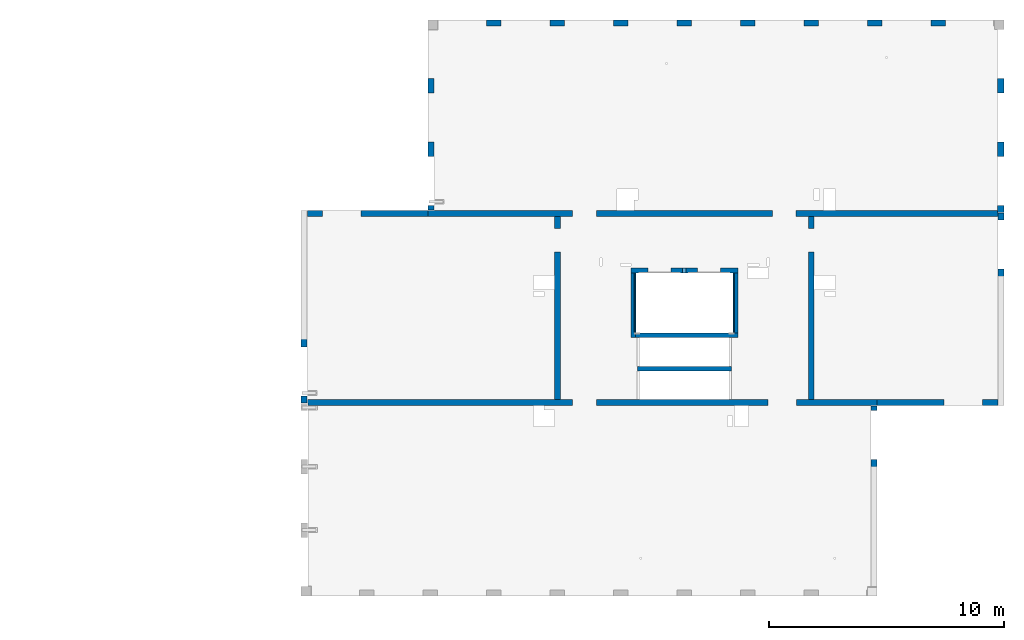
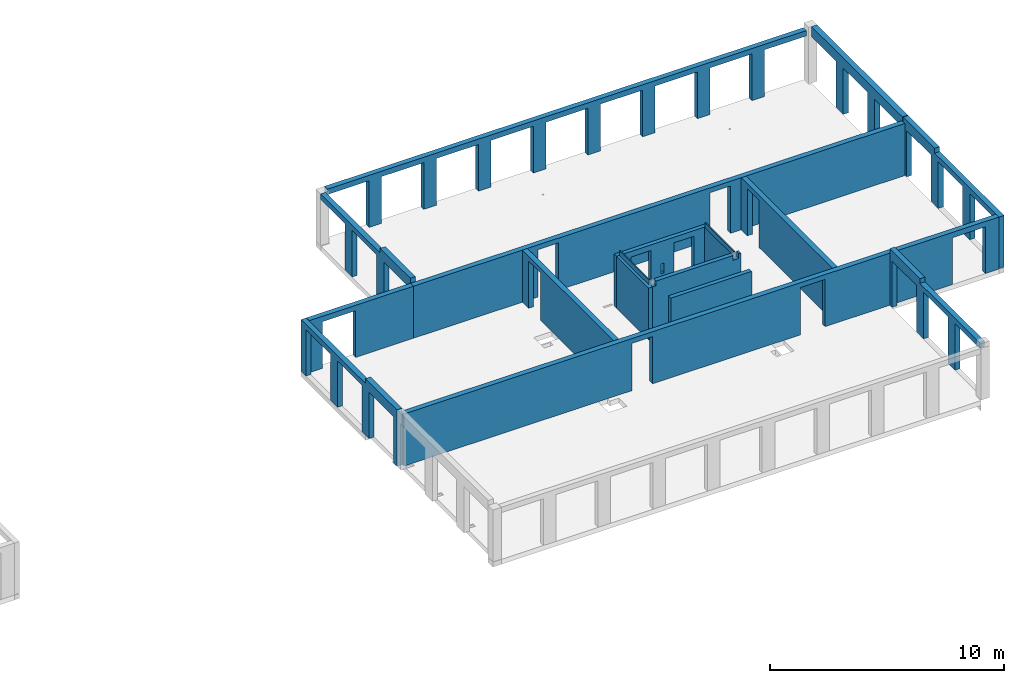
# One storey, part 4 of 8: 19 walls, 42 openings.
"""IFC2X3 building model written with IfcOpenShell, lengths in millimetres."""

from ifc_helpers import new_model, entity, si_unit, converted_unit, derived_unit, direction, frame, frame_2d, origin, place, context, subcontext, project, spatial, rectangle, extrude, material, layer, layer_set, layer_usage, type_object, element, save


model = new_model("IFC2X3")

# Units and contexts
model_context = context("Model", 3, precision=0.01, world=origin(), true_north=direction((6.12303176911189e-17, 1.0)))
body_context = subcontext(model_context, "Body", "Model", "MODEL_VIEW")
ifc_project = project(units=[si_unit("LENGTHUNIT", "METRE", prefix="MILLI"), si_unit("AREAUNIT", "SQUARE_METRE"), si_unit("VOLUMEUNIT", "CUBIC_METRE"), converted_unit("PLANEANGLEUNIT", "DEGREE", entity("IfcRatioMeasure", 0.0174532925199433), si_unit("PLANEANGLEUNIT", "RADIAN"), dimensions=[0, 0, 0, 0, 0, 0, 0]), si_unit("MASSUNIT", "GRAM", prefix="KILO"), derived_unit("MASSDENSITYUNIT", [(si_unit("MASSUNIT", "GRAM", prefix="KILO"), 1), (si_unit("LENGTHUNIT", "METRE"), -3)]), si_unit("TIMEUNIT", "SECOND"), si_unit("FREQUENCYUNIT", "HERTZ"), si_unit("THERMODYNAMICTEMPERATUREUNIT", "DEGREE_CELSIUS"), derived_unit("THERMALTRANSMITTANCEUNIT", [(si_unit("MASSUNIT", "GRAM", prefix="KILO"), 1), (si_unit("THERMODYNAMICTEMPERATUREUNIT", "KELVIN"), -1), (si_unit("TIMEUNIT", "SECOND"), -3)]), derived_unit("VOLUMETRICFLOWRATEUNIT", [(si_unit("LENGTHUNIT", "METRE"), 3), (si_unit("TIMEUNIT", "SECOND"), -1)]), si_unit("ELECTRICCURRENTUNIT", "AMPERE"), si_unit("ELECTRICVOLTAGEUNIT", "VOLT"), si_unit("POWERUNIT", "WATT"), si_unit("FORCEUNIT", "NEWTON", prefix="KILO"), si_unit("ILLUMINANCEUNIT", "LUX"), si_unit("LUMINOUSFLUXUNIT", "LUMEN"), si_unit("LUMINOUSINTENSITYUNIT", "CANDELA"), derived_unit("USERDEFINED", [(si_unit("MASSUNIT", "GRAM", prefix="KILO"), -1), (si_unit("LENGTHUNIT", "METRE"), -2), (si_unit("TIMEUNIT", "SECOND"), 3), (si_unit("LUMINOUSFLUXUNIT", "LUMEN"), 1)]), derived_unit("LINEARVELOCITYUNIT", [(si_unit("LENGTHUNIT", "METRE"), 1), (si_unit("TIMEUNIT", "SECOND"), -1)]), si_unit("PRESSUREUNIT", "PASCAL"), derived_unit("USERDEFINED", [(si_unit("LENGTHUNIT", "METRE"), -2), (si_unit("MASSUNIT", "GRAM", prefix="KILO"), 1), (si_unit("TIMEUNIT", "SECOND"), -2)])], contexts=[model_context])

# Site, building, storey
site_placement = place(None, origin())
site = spatial("IfcSite", under=ifc_project, at=site_placement, Name="Default", CompositionType="ELEMENT")
building_placement = place(site_placement, origin())
building = spatial("IfcBuilding", under=site, at=building_placement, Name="niet gebruiken", CompositionType="ELEMENT")
storey_placement = place(building_placement, frame((0.0, 0.0, 36360.0)))
storey = spatial("IfcBuildingStorey", under=building, at=storey_placement, Name="12 twaalfde verdieping", CompositionType="ELEMENT", Elevation=36360.0)

# Wall, openings
ifc_material_1 = material(Name="NLRS_f2_beton ihwg")
ifc_layer_1 = layer(ifc_material_1, 250.0)
ifc_layer_set_1 = layer_set([ifc_layer_1], Name="Basic Wall:NLRS_22.21_WA_beton ihwg d=250_gen")
ifc_layer_usage_1 = layer_usage(ifc_layer_set_1, "AXIS2", "NEGATIVE", 125.0)
wall_type_1 = type_object("IfcWallType", Name="Basic Wall:NLRS_22.21_WA_beton ihwg d=250_gen", PredefinedType="STANDARD", material=ifc_layer_set_1)
wall_1_placement = place(storey_placement, frame((75770.0, 36981.0, -90.0)))
wall_1 = element("IfcWallStandardCase", 1, at=wall_1_placement, inside=storey, type_object=wall_type_1, material=ifc_layer_usage_1, Name="Basic Wall:NLRS_22.21_WA_beton ihwg d=250_gen", ObjectType="Basic Wall:NLRS_22.21_WA_beton ihwg d=250_gen", context=body_context, shape_type="SweptSolid", body=[
    extrude(rectangle(XDim=24230.0000000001, YDim=250.000000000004, at=frame_2d((12115.0, 0.0), x_axis=(-1.0, 0.0))), origin(), (0.0, 0.0, 1.0), 2719.99999999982),
])
opening_1_placement = place(wall_1_placement, origin())
element("IfcOpeningElement", 2, at=opening_1_placement, cuts=wall_1, Name="Basic Wall:NLRS_22.21_WA_beton ihwg d=250_gen", ObjectType="Opening", context=body_context, shape_type="SweptSolid", body=[
    extrude(rectangle(XDim=2470.0, YDim=1225.0, at=frame_2d((-8.69704308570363e-12, -4.43378667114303e-12), x_axis=(0.0, 1.0))), frame((20192.5000000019, -1399.0, 1235.0), z_axis=(0.0, 1.0, 0.0), x_axis=(-1.0, 0.0, 0.0)), (0.0, 0.0, 1.0), 3048.0),
])
opening_2_placement = place(wall_1_placement, origin())
element("IfcOpeningElement", 3, at=opening_2_placement, cuts=wall_1, Name="Basic Wall:NLRS_22.21_WA_beton ihwg d=250_gen", ObjectType="Opening", context=body_context, shape_type="SweptSolid", body=[
    extrude(rectangle(XDim=2470.0, YDim=1006.0, at=frame_2d((8.66862137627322e-12, 0.0), x_axis=(0.0, 1.0))), frame((11782.0, -1399.0, 1235.0), z_axis=(0.0, 1.0, 0.0), x_axis=(-1.0, 0.0, 0.0)), (0.0, 0.0, 1.0), 3048.0),
])
opening_3_placement = place(wall_1_placement, origin())
element("IfcOpeningElement", 4, at=opening_3_placement, cuts=wall_1, Name="Basic Wall:NLRS_22.21_WA_beton ihwg d=250_gen", ObjectType="Recess", context=body_context, shape_type="SweptSolid", body=[
    extrude(rectangle(XDim=55000.0, YDim=19.9999999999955, at=frame_2d((0.0, 4.33164615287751e-12), x_axis=(1.0, 0.0))), frame((10.0, -140.0, 3740.0), z_axis=(0.0, 1.0, 0.0), x_axis=(0.0, 0.0, -1.0)), (0.0, 0.0, 1.0), 124.999999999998),
])

# Wall, opening
ifc_layer_usage_2 = layer_usage(ifc_layer_set_1, "AXIS2", "NEGATIVE", 125.0)
wall_2_placement = place(storey_placement, frame((75770.0, 45031.0, -90.0)))
wall_2 = element("IfcWallStandardCase", 5, at=wall_2_placement, inside=storey, type_object=wall_type_1, material=ifc_layer_usage_2, Name="Basic Wall:NLRS_22.21_WA_beton ihwg d=250_gen", ObjectType="Basic Wall:NLRS_22.21_WA_beton ihwg d=250_gen", context=body_context, shape_type="SweptSolid", body=[
    extrude(rectangle(XDim=5130.0, YDim=249.999999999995, at=frame_2d((2565.0, 0.0), x_axis=(-1.0, 0.0))), origin(), (0.0, 0.0, 1.0), 2719.99999999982),
])
opening_4_placement = place(wall_2_placement, origin())
element("IfcOpeningElement", 6, at=opening_4_placement, cuts=wall_2, Name="Basic Wall:NLRS_22.21_WA_beton ihwg d=250_gen", ObjectType="Opening", context=body_context, shape_type="SweptSolid", body=[
    extrude(rectangle(XDim=2440.0, YDim=1640.0, at=frame_2d((0.0, 4.37694325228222e-12), x_axis=(1.0, 0.0))), frame((1460.0, -1649.0, 1220.0), z_axis=(0.0, 1.0, 0.0), x_axis=(0.0, 0.0, 1.0)), (0.0, 0.0, 1.0), 3048.0),
])

ifc_layer_usage_3 = layer_usage(ifc_layer_set_1, "AXIS2", "NEGATIVE", 125.0)
wall_3_placement = place(storey_placement, frame((86400.0, 44906.0, -90.0), z_axis=(0.0, 0.0, 1.0), x_axis=(0.0, -1.0, 0.0)))
wall_3 = element("IfcWallStandardCase", 7, at=wall_3_placement, inside=storey, type_object=wall_type_1, material=ifc_layer_usage_3, Name="Basic Wall:NLRS_22.21_WA_beton ihwg d=250_gen", ObjectType="Basic Wall:NLRS_22.21_WA_beton ihwg d=250_gen", context=body_context, shape_type="SweptSolid", body=[
    extrude(rectangle(XDim=7799.99999999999, YDim=250.000000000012, at=frame_2d((3900.0, 0.0), x_axis=(-1.0, 0.0))), origin(), (0.0, 0.0, 1.0), 2719.99999999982),
])
opening_5_placement = place(wall_3_placement, origin())
element("IfcOpeningElement", 8, at=opening_5_placement, cuts=wall_3, Name="Basic Wall:NLRS_22.21_WA_beton ihwg d=250_gen", ObjectType="Opening", context=body_context, shape_type="SweptSolid", body=[
    extrude(rectangle(XDim=2470.0, YDim=1006.0, at=frame_2d((-4.43378667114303e-12, 0.0), x_axis=(1.0, 0.0))), frame((1027.0, -1649.0, 1235.0), z_axis=(0.0, 1.0, 0.0), x_axis=(0.0, 0.0, 1.0)), (0.0, 0.0, 1.0), 3048.0),
])

ifc_layer_usage_4 = layer_usage(ifc_layer_set_1, "AXIS2", "NEGATIVE", 125.0)
wall_4_placement = place(storey_placement, frame((97200.0, 44906.0, -90.0), z_axis=(0.0, 0.0, 1.0), x_axis=(0.0, -1.0, 0.0)))
wall_4 = element("IfcWallStandardCase", 9, at=wall_4_placement, inside=storey, type_object=wall_type_1, material=ifc_layer_usage_4, Name="Basic Wall:NLRS_22.21_WA_beton ihwg d=250_gen", ObjectType="Basic Wall:NLRS_22.21_WA_beton ihwg d=250_gen", context=body_context, shape_type="SweptSolid", body=[
    extrude(rectangle(XDim=7799.99999999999, YDim=250.000000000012, at=frame_2d((3900.0, 0.0), x_axis=(-1.0, 0.0))), origin(), (0.0, 0.0, 1.0), 2719.99999999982),
])
opening_6_placement = place(wall_4_placement, origin())
element("IfcOpeningElement", 10, at=opening_6_placement, cuts=wall_4, Name="Basic Wall:NLRS_22.21_WA_beton ihwg d=250_gen", ObjectType="Opening", context=body_context, shape_type="SweptSolid", body=[
    extrude(rectangle(XDim=2470.0, YDim=1006.0, at=frame_2d((-4.43378667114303e-12, 0.0), x_axis=(1.0, 0.0))), frame((1027.0, -1649.0, 1235.0), z_axis=(0.0, 1.0, 0.0), x_axis=(0.0, 0.0, 1.0)), (0.0, 0.0, 1.0), 3048.0),
])

# Wall, openings
ifc_layer_usage_5 = layer_usage(ifc_layer_set_1, "AXIS2", "NEGATIVE", 125.0)
wall_5_placement = place(storey_placement, frame((80900.0, 45031.0, -90.0)))
wall_5 = element("IfcWallStandardCase", 11, at=wall_5_placement, inside=storey, type_object=wall_type_1, material=ifc_layer_usage_5, Name="Basic Wall:NLRS_22.21_WA_beton ihwg d=250_gen", ObjectType="Basic Wall:NLRS_22.21_WA_beton ihwg d=250_gen", context=body_context, shape_type="SweptSolid", body=[
    extrude(rectangle(XDim=24250.0, YDim=249.999999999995, at=frame_2d((12125.0, 0.0), x_axis=(-1.0, 0.0))), origin(), (0.0, 0.0, 1.0), 2719.99999999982),
])
opening_7_placement = place(wall_5_placement, origin())
element("IfcOpeningElement", 12, at=opening_7_placement, cuts=wall_5, Name="Basic Wall:NLRS_22.21_WA_beton ihwg d=250_gen", ObjectType="Opening", context=body_context, shape_type="SweptSolid", body=[
    extrude(rectangle(XDim=2470.0, YDim=1006.0, at=frame_2d((-4.43378667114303e-12, 8.66862137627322e-12), x_axis=(1.0, 0.0))), frame((15148.0, -1649.0, 1235.0), z_axis=(0.0, 1.0, 0.0), x_axis=(0.0, 0.0, 1.0)), (0.0, 0.0, 1.0), 3048.0),
])
opening_8_placement = place(wall_5_placement, origin())
element("IfcOpeningElement", 13, at=opening_8_placement, cuts=wall_5, Name="Basic Wall:NLRS_22.21_WA_beton ihwg d=250_gen", ObjectType="Opening", context=body_context, shape_type="SweptSolid", body=[
    extrude(rectangle(XDim=2470.0, YDim=1006.0, at=frame_2d((0.0, 8.66862137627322e-12), x_axis=(1.0, 0.0))), frame((6652.0, -1649.0, 1235.0), z_axis=(0.0, 1.0, 0.0), x_axis=(0.0, 0.0, 1.0)), (0.0, 0.0, 1.0), 3048.0),
])

# Wall, opening
ifc_layer_usage_6 = layer_usage(ifc_layer_set_1, "AXIS2", "NEGATIVE", 125.0)
wall_6_placement = place(storey_placement, frame((100000.0, 36981.0, -90.0)))
wall_6 = element("IfcWallStandardCase", 14, at=wall_6_placement, inside=storey, type_object=wall_type_1, material=ifc_layer_usage_6, Name="Basic Wall:NLRS_22.21_WA_beton ihwg d=250_gen", ObjectType="Basic Wall:NLRS_22.21_WA_beton ihwg d=250_gen", context=body_context, shape_type="SweptSolid", body=[
    extrude(rectangle(XDim=5149.99999999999, YDim=250.000000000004, at=frame_2d((2575.0, 0.0), x_axis=(-1.0, 0.0))), origin(), (0.0, 0.0, 1.0), 2719.99999999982),
])
opening_9_placement = place(wall_6_placement, origin())
element("IfcOpeningElement", 15, at=opening_9_placement, cuts=wall_6, Name="Basic Wall:NLRS_22.21_WA_beton ihwg d=250_gen", ObjectType="Opening", context=body_context, shape_type="SweptSolid", body=[
    extrude(rectangle(XDim=2440.0, YDim=1639.99999999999, at=frame_2d((-8.69704308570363e-12, 0.0), x_axis=(0.0, 1.0))), frame((3670.0, -1399.0, 1220.0), z_axis=(0.0, 1.0, 0.0), x_axis=(-1.0, 0.0, 0.0)), (0.0, 0.0, 1.0), 3048.0),
])

# Wall, openings
ifc_material_2 = material(Name="NLRS_f2_beton prefab")
ifc_layer_2 = layer(ifc_material_2, 250.0)
ifc_layer_set_2 = layer_set([ifc_layer_2], Name="Basic Wall:NLRS_21.21_WA_beton prefab d=250_gen")
ifc_layer_usage_7 = layer_usage(ifc_layer_set_2, "AXIS2", "NEGATIVE", 125.0)
wall_type_2 = type_object("IfcWallType", Name="Basic Wall:NLRS_21.21_WA_beton prefab d=250_gen", PredefinedType="STANDARD", material=ifc_layer_set_2)
wall_7_placement = place(storey_placement, frame((75625.0, 45156.0, -70.0), z_axis=(0.0, 0.0, 1.0), x_axis=(0.0, -1.0, 0.0)))
wall_7 = element("IfcWallStandardCase", 16, at=wall_7_placement, inside=storey, type_object=wall_type_2, material=ifc_layer_usage_7, Name="Basic Wall:NLRS_21.21_WA_beton prefab d=250_gen", ObjectType="Basic Wall:NLRS_21.21_WA_beton prefab d=250_gen", context=body_context, shape_type="SweptSolid", body=[
    extrude(rectangle(XDim=8189.99999999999, YDim=249.999999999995, at=frame_2d((4095.0, 0.0), x_axis=(-1.0, 0.0))), origin(), (0.0, 0.0, 1.0), 2949.99999999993),
])
opening_10_placement = place(wall_7_placement, origin())
element("IfcOpeningElement", 17, at=opening_10_placement, cuts=wall_7, Name="Basic Wall:NLRS_21.21_WA_beton prefab d=250_gen", ObjectType="Opening", context=body_context, shape_type="SweptSolid", body=[
    extrude(rectangle(XDim=2420.0, YDim=2080.0, at=frame_2d((0.0, -2.1600499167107e-12), x_axis=(0.0, 1.0))), frame((1450.0, -1399.0, 1210.0), z_axis=(0.0, 1.0, 0.0), x_axis=(-1.0, 0.0, 0.0)), (0.0, 0.0, 1.0), 3048.0),
])
opening_11_placement = place(wall_7_placement, origin())
element("IfcOpeningElement", 18, at=opening_11_placement, cuts=wall_7, Name="Basic Wall:NLRS_21.21_WA_beton prefab d=250_gen", ObjectType="Opening", context=body_context, shape_type="SweptSolid", body=[
    extrude(rectangle(XDim=2420.0, YDim=2080.0, at=frame_2d((0.0, 2.1600499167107e-12), x_axis=(0.0, 1.0))), frame((4150.0, -1399.0, 1210.0), z_axis=(0.0, 1.0, 0.0), x_axis=(-1.0, 0.0, 0.0)), (0.0, 0.0, 1.0), 3048.0),
])
opening_12_placement = place(wall_7_placement, origin())
element("IfcOpeningElement", 19, at=opening_12_placement, cuts=wall_7, Name="Basic Wall:NLRS_21.21_WA_beton prefab d=250_gen", ObjectType="Opening", context=body_context, shape_type="SweptSolid", body=[
    extrude(rectangle(XDim=2420.0, YDim=2080.0, at=frame_2d((0.0, 2.1600499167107e-12), x_axis=(0.0, 1.0))), frame((6850.0, -1399.0, 1210.0), z_axis=(0.0, 1.0, 0.0), x_axis=(-1.0, 0.0, 0.0)), (0.0, 0.0, 1.0), 3048.0),
])
opening_13_placement = place(wall_7_placement, origin())
element("IfcOpeningElement", 20, at=opening_13_placement, cuts=wall_7, Name="Basic Wall:NLRS_21.21_WA_beton prefab d=250_gen", ObjectType="Opening", context=body_context, shape_type="SweptSolid", body=[
    extrude(rectangle(XDim=250.000000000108, YDim=5499.99999999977, at=frame_2d((0.0, 4.32720526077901e-12), x_axis=(0.0, 1.0))), frame((2750.0, 125.0, 2825.0), z_axis=(0.0, -1.0, 0.0), x_axis=(-1.0, 0.0, 0.0)), (0.0, 0.0, 1.0), 250.0),
])

ifc_layer_usage_8 = layer_usage(ifc_layer_set_2, "AXIS2", "NEGATIVE", 125.0)
wall_8_placement = place(storey_placement, frame((81025.0, 52846.0, -70.0), z_axis=(0.0, 0.0, 1.0), x_axis=(0.0, -1.0, 0.0)))
wall_8 = element("IfcWallStandardCase", 21, at=wall_8_placement, inside=storey, type_object=wall_type_2, material=ifc_layer_usage_8, Name="Basic Wall:NLRS_21.21_WA_beton prefab d=250_gen", ObjectType="Basic Wall:NLRS_21.21_WA_beton prefab d=250_gen", context=body_context, shape_type="SweptSolid", body=[
    extrude(rectangle(XDim=7670.00000000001, YDim=250.000000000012, at=frame_2d((3835.0, 0.0), x_axis=(-1.0, 0.0))), origin(), (0.0, 0.0, 1.0), 2949.99999999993),
])
opening_14_placement = place(wall_8_placement, origin())
element("IfcOpeningElement", 22, at=opening_14_placement, cuts=wall_8, Name="Basic Wall:NLRS_21.21_WA_beton prefab d=250_gen", ObjectType="Opening", context=body_context, shape_type="SweptSolid", body=[
    extrude(rectangle(XDim=2420.0, YDim=2080.0, at=frame_2d((0.0, -2.1600499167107e-12), x_axis=(0.0, 1.0))), frame((1040.0, -1399.0, 1210.0), z_axis=(0.0, 1.0, 0.0), x_axis=(-1.0, 0.0, 0.0)), (0.0, 0.0, 1.0), 3048.0),
])
opening_15_placement = place(wall_8_placement, origin())
element("IfcOpeningElement", 23, at=opening_15_placement, cuts=wall_8, Name="Basic Wall:NLRS_21.21_WA_beton prefab d=250_gen", ObjectType="Opening", context=body_context, shape_type="SweptSolid", body=[
    extrude(rectangle(XDim=2420.0, YDim=2080.0, at=frame_2d((0.0, 2.1600499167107e-12), x_axis=(0.0, 1.0))), frame((3740.0, -1399.0, 1210.0), z_axis=(0.0, 1.0, 0.0), x_axis=(-1.0, 0.0, 0.0)), (0.0, 0.0, 1.0), 3048.0),
])
opening_16_placement = place(wall_8_placement, origin())
element("IfcOpeningElement", 24, at=opening_16_placement, cuts=wall_8, Name="Basic Wall:NLRS_21.21_WA_beton prefab d=250_gen", ObjectType="Opening", context=body_context, shape_type="SweptSolid", body=[
    extrude(rectangle(XDim=2420.0, YDim=2080.0, at=frame_2d((0.0, 2.1600499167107e-12), x_axis=(0.0, 1.0))), frame((6440.0, -1399.0, 1210.0), z_axis=(0.0, 1.0, 0.0), x_axis=(-1.0, 0.0, 0.0)), (0.0, 0.0, 1.0), 3048.0),
])
opening_17_placement = place(wall_8_placement, origin())
element("IfcOpeningElement", 25, at=opening_17_placement, cuts=wall_8, Name="Basic Wall:NLRS_21.21_WA_beton prefab d=250_gen", ObjectType="Opening", context=body_context, shape_type="SweptSolid", body=[
    extrude(rectangle(XDim=250.000000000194, YDim=5089.99999999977, at=frame_2d((4.32009983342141e-12, -4.32720526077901e-12), x_axis=(0.0, 1.0))), frame((2545.0, 125.0, 2825.0), z_axis=(0.0, -1.0, 0.0), x_axis=(-1.0, 0.0, 0.0)), (0.0, 0.0, 1.0), 250.0),
])

ifc_layer_usage_9 = layer_usage(ifc_layer_set_2, "AXIS2", "NEGATIVE", 125.0)
wall_9_placement = place(storey_placement, frame((105275.0, 45046.0, -70.0), z_axis=(0.0, 0.0, 1.0), x_axis=(0.0, -1.0, 0.0)))
wall_9 = element("IfcWallStandardCase", 26, at=wall_9_placement, inside=storey, type_object=wall_type_2, material=ifc_layer_usage_9, Name="Basic Wall:NLRS_21.21_WA_beton prefab d=250_gen", ObjectType="Basic Wall:NLRS_21.21_WA_beton prefab d=250_gen", context=body_context, shape_type="SweptSolid", body=[
    extrude(rectangle(XDim=8189.99999999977, YDim=250.000000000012, at=frame_2d((4094.99999999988, 0.0), x_axis=(-1.0, 0.0))), origin(), (0.0, 0.0, 1.0), 2949.99999999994),
])
opening_18_placement = place(wall_9_placement, origin())
element("IfcOpeningElement", 27, at=opening_18_placement, cuts=wall_9, Name="Basic Wall:NLRS_21.21_WA_beton prefab d=250_gen", ObjectType="Opening", context=body_context, shape_type="SweptSolid", body=[
    extrude(rectangle(XDim=2420.0, YDim=2080.0, at=frame_2d((0.0, -2.1600499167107e-12), x_axis=(0.0, 1.0))), frame((1340.0, -1399.0, 1210.0), z_axis=(0.0, 1.0, 0.0), x_axis=(-1.0, 0.0, 0.0)), (0.0, 0.0, 1.0), 3048.0),
])
opening_19_placement = place(wall_9_placement, origin())
element("IfcOpeningElement", 28, at=opening_19_placement, cuts=wall_9, Name="Basic Wall:NLRS_21.21_WA_beton prefab d=250_gen", ObjectType="Opening", context=body_context, shape_type="SweptSolid", body=[
    extrude(rectangle(XDim=2420.0, YDim=2080.0, at=frame_2d((0.0, -2.1600499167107e-12), x_axis=(0.0, 1.0))), frame((4040.0, -1399.0, 1210.0), z_axis=(0.0, 1.0, 0.0), x_axis=(-1.0, 0.0, 0.0)), (0.0, 0.0, 1.0), 3048.0),
])
opening_20_placement = place(wall_9_placement, origin())
element("IfcOpeningElement", 29, at=opening_20_placement, cuts=wall_9, Name="Basic Wall:NLRS_21.21_WA_beton prefab d=250_gen", ObjectType="Opening", context=body_context, shape_type="SweptSolid", body=[
    extrude(rectangle(XDim=2420.0, YDim=2080.0, at=frame_2d((0.0, -2.1600499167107e-12), x_axis=(0.0, 1.0))), frame((6740.0, -1399.0, 1210.0), z_axis=(0.0, 1.0, 0.0), x_axis=(-1.0, 0.0, 0.0)), (0.0, 0.0, 1.0), 3048.0),
])
opening_21_placement = place(wall_9_placement, origin())
element("IfcOpeningElement", 30, at=opening_21_placement, cuts=wall_9, Name="Basic Wall:NLRS_21.21_WA_beton prefab d=250_gen", ObjectType="Opening", context=body_context, shape_type="SweptSolid", body=[
    extrude(rectangle(XDim=249.999999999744, YDim=5500.0000000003, at=frame_2d((-4.33431068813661e-12, 4.32009983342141e-12), x_axis=(1.0, 0.0))), frame((5440.0, 125.0, 2825.0), z_axis=(0.0, -1.0, 0.0), x_axis=(0.0, 0.0, 1.0)), (0.0, 0.0, 1.0), 250.0),
])

ifc_layer_usage_10 = layer_usage(ifc_layer_set_2, "AXIS2", "NEGATIVE", 125.0)
wall_10_placement = place(storey_placement, frame((99875.0, 29166.0, -70.0), z_axis=(0.0, 0.0, 1.0), x_axis=(0.0, 1.0, 0.0)))
wall_10 = element("IfcWallStandardCase", 31, at=wall_10_placement, inside=storey, type_object=wall_type_2, material=ifc_layer_usage_10, Name="Basic Wall:NLRS_21.21_WA_beton prefab d=250_gen", ObjectType="Basic Wall:NLRS_21.21_WA_beton prefab d=250_gen", context=body_context, shape_type="SweptSolid", body=[
    extrude(rectangle(XDim=7669.99999999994, YDim=250.000000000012, at=frame_2d((3834.99999999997, 0.0), x_axis=(-1.0, 0.0))), origin(), (0.0, 0.0, 1.0), 2949.99999999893),
])
opening_22_placement = place(wall_10_placement, origin())
element("IfcOpeningElement", 32, at=opening_22_placement, cuts=wall_10, Name="Basic Wall:NLRS_21.21_WA_beton prefab d=250_gen", ObjectType="Opening", context=body_context, shape_type="SweptSolid", body=[
    extrude(rectangle(XDim=2420.0, YDim=2080.0, at=frame_2d((-2.1600499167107e-12, -2.1600499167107e-12), x_axis=(0.0, 1.0))), frame((1040.0, -1399.0, 1210.0), z_axis=(0.0, 1.0, 0.0), x_axis=(-1.0, 0.0, 0.0)), (0.0, 0.0, 1.0), 3048.0),
])
opening_23_placement = place(wall_10_placement, origin())
element("IfcOpeningElement", 33, at=opening_23_placement, cuts=wall_10, Name="Basic Wall:NLRS_21.21_WA_beton prefab d=250_gen", ObjectType="Opening", context=body_context, shape_type="SweptSolid", body=[
    extrude(rectangle(XDim=2420.0, YDim=2080.0, at=frame_2d((2.1600499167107e-12, -2.1600499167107e-12), x_axis=(0.0, 1.0))), frame((6440.0, -1399.0, 1210.0), z_axis=(0.0, 1.0, 0.0), x_axis=(-1.0, 0.0, 0.0)), (0.0, 0.0, 1.0), 3048.0),
])
opening_24_placement = place(wall_10_placement, origin())
element("IfcOpeningElement", 34, at=opening_24_placement, cuts=wall_10, Name="Basic Wall:NLRS_21.21_WA_beton prefab d=250_gen", ObjectType="Opening", context=body_context, shape_type="SweptSolid", body=[
    extrude(rectangle(XDim=2420.0, YDim=2080.0, at=frame_2d((2.1600499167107e-12, -2.1600499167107e-12), x_axis=(0.0, 1.0))), frame((3740.0, -1399.0, 1210.0), z_axis=(0.0, 1.0, 0.0), x_axis=(-1.0, 0.0, 0.0)), (0.0, 0.0, 1.0), 3048.0),
])
opening_25_placement = place(wall_10_placement, origin())
element("IfcOpeningElement", 35, at=opening_25_placement, cuts=wall_10, Name="Basic Wall:NLRS_21.21_WA_beton prefab d=250_gen", ObjectType="Opening", context=body_context, shape_type="SweptSolid", body=[
    extrude(rectangle(XDim=249.999999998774, YDim=5090.00000000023, at=frame_2d((0.0, -4.32720526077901e-12), x_axis=(0.0, 1.0))), frame((2545.0, 125.0, 2825.0), z_axis=(0.0, -1.0, 0.0), x_axis=(-1.0, 0.0, 0.0)), (0.0, 0.0, 1.0), 250.0),
])

# Wall
ifc_layer_3 = layer(ifc_material_2, 200.0)
ifc_layer_set_3 = layer_set([ifc_layer_3], Name="Basic Wall:NLRS_21.21_WA_beton prefab d=200_gen")
ifc_layer_usage_11 = layer_usage(ifc_layer_set_3, "AXIS2", "NEGATIVE", 100.0)
wall_type_3 = type_object("IfcWallType", Name="Basic Wall:NLRS_21.21_WA_beton prefab d=200_gen", PredefinedType="STANDARD", material=ifc_layer_set_3)
wall_11_placement = place(storey_placement, frame((89800.0, 38426.0, -70.0)))
element("IfcWallStandardCase", 36, at=wall_11_placement, inside=storey, type_object=wall_type_3, material=ifc_layer_usage_11, Name="Basic Wall:NLRS_21.21_WA_beton prefab d=200_gen", ObjectType="Basic Wall:NLRS_21.21_WA_beton prefab d=200_gen", context=body_context, shape_type="SweptSolid", body=[
    extrude(rectangle(XDim=3999.99999999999, YDim=199.999999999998, at=frame_2d((2000.0, 0.0), x_axis=(-1.0, 0.0))), origin(), (0.0, 0.0, 1.0), 2950.00000000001),
])

# Wall, openings
ifc_layer_4 = layer(ifc_material_2, 200.0)
ifc_layer_set_4 = layer_set([ifc_layer_4], Name="Basic Wall:NLRS_22.21_WA_beton prefab d=200_gen")
ifc_layer_usage_12 = layer_usage(ifc_layer_set_4, "AXIS2", "NEGATIVE", 100.0)
wall_type_4 = type_object("IfcWallType", Name="Basic Wall:NLRS_22.21_WA_beton prefab d=200_gen", PredefinedType="STANDARD", material=ifc_layer_set_4)
wall_12_placement = place(storey_placement, frame((89525.0, 42596.0, -70.0)))
wall_12 = element("IfcWallStandardCase", 37, at=wall_12_placement, inside=storey, type_object=wall_type_4, material=ifc_layer_usage_12, Name="Basic Wall:NLRS_22.21_WA_beton prefab d=200_gen", ObjectType="Basic Wall:NLRS_22.21_WA_beton prefab d=200_gen", context=body_context, shape_type="SweptSolid", body=[
    extrude(rectangle(XDim=4550.00000000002, YDim=200.000000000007, at=frame_2d((2275.00000000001, 7.8159700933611e-13), x_axis=(-1.0, 0.0))), origin(), (0.0, 0.0, 1.0), 2700.00000000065),
])
opening_26_placement = place(wall_12_placement, origin())
element("IfcOpeningElement", 38, at=opening_26_placement, cuts=wall_12, Name="Basic Wall:NLRS_22.21_WA_beton prefab d=200_gen", ObjectType="Opening", context=body_context, shape_type="SweptSolid", body=[
    extrude(rectangle(XDim=2430.0, YDim=980.000000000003, at=frame_2d((0.0, -8.66862137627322e-12), x_axis=(1.0, 0.0))), frame((1219.99984910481, -1624.0, 1195.0), z_axis=(0.0, 1.0, 0.0), x_axis=(0.0, 0.0, 1.0)), (0.0, 0.0, 1.0), 3048.0),
])
opening_27_placement = place(wall_12_placement, origin())
element("IfcOpeningElement", 39, at=opening_27_placement, cuts=wall_12, Name="Basic Wall:NLRS_22.21_WA_beton prefab d=200_gen", ObjectType="Opening", context=body_context, shape_type="SweptSolid", body=[
    extrude(rectangle(XDim=2430.0, YDim=980.000000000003, at=frame_2d((0.0, -8.66862137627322e-12), x_axis=(1.0, 0.0))), frame((3329.99984910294, -1624.0, 1195.0), z_axis=(0.0, 1.0, 0.0), x_axis=(0.0, 0.0, 1.0)), (0.0, 0.0, 1.0), 3048.0),
])
opening_28_placement = place(wall_12_placement, origin())
element("IfcOpeningElement", 40, at=opening_28_placement, cuts=wall_12, Name="Basic Wall:NLRS_22.21_WA_beton prefab d=200_gen", ObjectType="Opening", context=body_context, shape_type="SweptSolid", body=[
    extrude(rectangle(XDim=504.999999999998, YDim=135.000000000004, at=frame_2d((-2.1600499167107e-12, -8.66151594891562e-12), x_axis=(1.0, 0.0))), frame((2275.0, -1624.0, 1272.49999999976), z_axis=(0.0, 1.0, 0.0), x_axis=(0.0, 0.0, 1.0)), (0.0, 0.0, 1.0), 3048.0),
])

# Wall
ifc_layer_usage_13 = layer_usage(ifc_layer_set_4, "AXIS2", "NEGATIVE", 100.0)
wall_13_placement = place(storey_placement, frame((89625.0, 42496.0, -70.0), z_axis=(0.0, 0.0, 1.0), x_axis=(0.0, -1.0, 0.0)))
element("IfcWallStandardCase", 41, at=wall_13_placement, inside=storey, type_object=wall_type_4, material=ifc_layer_usage_13, Name="Basic Wall:NLRS_22.21_WA_beton prefab d=200_gen", ObjectType="Basic Wall:NLRS_22.21_WA_beton prefab d=200_gen", context=body_context, shape_type="SweptSolid", body=[
    extrude(rectangle(XDim=2749.99999999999, YDim=199.999999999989, at=frame_2d((1375.0, 0.0), x_axis=(-1.0, 0.0))), origin(), (0.0, 0.0, 1.0), 2699.99999999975),
])

# Wall, openings
ifc_layer_usage_14 = layer_usage(ifc_layer_set_4, "AXIS2", "NEGATIVE", 100.0)
wall_14_placement = place(storey_placement, frame((94075.0, 39846.0, -70.0), z_axis=(0.0, 0.0, 1.0), x_axis=(-1.0, 0.0, 0.0)))
wall_14 = element("IfcWallStandardCase", 42, at=wall_14_placement, inside=storey, type_object=wall_type_4, material=ifc_layer_usage_14, Name="Basic Wall:NLRS_22.21_WA_beton prefab d=200_gen", ObjectType="Basic Wall:NLRS_22.21_WA_beton prefab d=200_gen", context=body_context, shape_type="SweptSolid", body=[
    extrude(rectangle(XDim=4350.00000000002, YDim=200.000000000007, at=frame_2d((2175.00000000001, 0.0), x_axis=(-1.0, 0.0))), origin(), (0.0, 0.0, 1.0), 2949.99999999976),
])
opening_29_placement = place(wall_14_placement, origin())
element("IfcOpeningElement", 43, at=opening_29_placement, cuts=wall_14, Name="Basic Wall:NLRS_22.21_WA_beton prefab d=200_gen", ObjectType="Opening", context=body_context, shape_type="SweptSolid", body=[
    extrude(rectangle(XDim=249.999999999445, YDim=274.999967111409, at=frame_2d((-2.16715534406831e-12, 8.65441052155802e-12), x_axis=(1.0, 0.0))), frame((4312.50001644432, 100.0, 2825.0), z_axis=(0.0, -1.0, 0.0), x_axis=(0.0, 0.0, 1.0)), (0.0, 0.0, 1.0), 200.0),
])
opening_30_placement = place(wall_14_placement, origin())
element("IfcOpeningElement", 44, at=opening_30_placement, cuts=wall_14, Name="Basic Wall:NLRS_22.21_WA_beton prefab d=200_gen", ObjectType="Opening", context=body_context, shape_type="SweptSolid", body=[
    extrude(rectangle(XDim=249.999999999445, YDim=274.999967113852, at=frame_2d((0.0, 2.16715534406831e-12), x_axis=(0.0, 1.0))), frame((237.499983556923, 100.0, 2825.0), z_axis=(0.0, -1.0, 0.0), x_axis=(-1.0, 0.0, 0.0)), (0.0, 0.0, 1.0), 200.0),
])

# Wall
ifc_layer_usage_15 = layer_usage(ifc_layer_set_4, "AXIS2", "NEGATIVE", 100.0)
wall_15_placement = place(storey_placement, frame((93975.0, 39946.0, -70.0), z_axis=(0.0, 0.0, 1.0), x_axis=(0.0, 1.0, 0.0)))
element("IfcWallStandardCase", 45, at=wall_15_placement, inside=storey, type_object=wall_type_4, material=ifc_layer_usage_15, Name="Basic Wall:NLRS_22.21_WA_beton prefab d=200_gen", ObjectType="Basic Wall:NLRS_22.21_WA_beton prefab d=200_gen", context=body_context, shape_type="SweptSolid", body=[
    extrude(rectangle(XDim=2549.99999999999, YDim=199.999999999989, at=frame_2d((1275.0, 0.0), x_axis=(-1.0, 0.0))), origin(), (0.0, 0.0, 1.0), 2699.99999999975),
])

# Wall, openings
ifc_layer_5 = layer(ifc_material_1, 250.0)
ifc_layer_set_5 = layer_set([ifc_layer_5], Name="Basic Wall:NLRS_21.21_WA_beton ihwg d=250_gen")
ifc_layer_usage_16 = layer_usage(ifc_layer_set_5, "AXIS2", "NEGATIVE", 125.0)
wall_type_5 = type_object("IfcWallType", Name="Basic Wall:NLRS_21.21_WA_beton ihwg d=250_gen", PredefinedType="STANDARD", material=ifc_layer_set_5)
wall_16_placement = place(storey_placement, frame((104970.0, 53131.0, -90.0), z_axis=(0.0, 0.0, 1.0), x_axis=(-1.0, 0.0, 0.0)))
wall_16 = element("IfcWallStandardCase", 46, at=wall_16_placement, inside=storey, type_object=wall_type_5, material=ifc_layer_usage_16, Name="Basic Wall:NLRS_21.21_WA_beton ihwg d=250_gen", ObjectType="Basic Wall:NLRS_21.21_WA_beton ihwg d=250_gen", context=body_context, shape_type="SweptSolid", body=[
    extrude(rectangle(XDim=23640.0000000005, YDim=249.999999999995, at=frame_2d((11820.0000000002, 5.82645043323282e-13), x_axis=(-1.0, 0.0))), origin(), (0.0, 0.0, 1.0), 2720.00000000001),
])
opening_31_placement = place(wall_16_placement, origin())
element("IfcOpeningElement", 47, at=opening_31_placement, cuts=wall_16, Name="Basic Wall:NLRS_21.21_WA_beton ihwg d=250_gen", ObjectType="Opening", context=body_context, shape_type="SweptSolid", body=[
    extrude(rectangle(XDim=2440.0, YDim=2080.0, at=frame_2d((8.64019966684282e-12, -2.1600499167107e-12), x_axis=(0.0, 1.0))), frame((22620.0, -1399.0, 1220.0), z_axis=(0.0, 1.0, 0.0), x_axis=(-1.0, 0.0, 0.0)), (0.0, 0.0, 1.0), 3048.0),
])
opening_32_placement = place(wall_16_placement, origin())
element("IfcOpeningElement", 48, at=opening_32_placement, cuts=wall_16, Name="Basic Wall:NLRS_21.21_WA_beton ihwg d=250_gen", ObjectType="Opening", context=body_context, shape_type="SweptSolid", body=[
    extrude(rectangle(XDim=2440.0, YDim=2080.0, at=frame_2d((-8.64019966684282e-12, 0.0), x_axis=(0.0, 1.0))), frame((19920.0, -1399.0, 1220.0), z_axis=(0.0, 1.0, 0.0), x_axis=(-1.0, 0.0, 0.0)), (0.0, 0.0, 1.0), 3048.0),
])
opening_33_placement = place(wall_16_placement, origin())
element("IfcOpeningElement", 49, at=opening_33_placement, cuts=wall_16, Name="Basic Wall:NLRS_21.21_WA_beton ihwg d=250_gen", ObjectType="Opening", context=body_context, shape_type="SweptSolid", body=[
    extrude(rectangle(XDim=2440.0, YDim=2080.0, at=frame_2d((-8.64019966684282e-12, 2.1600499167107e-12), x_axis=(0.0, 1.0))), frame((17220.0, -1399.0, 1220.0), z_axis=(0.0, 1.0, 0.0), x_axis=(-1.0, 0.0, 0.0)), (0.0, 0.0, 1.0), 3048.0),
])
opening_34_placement = place(wall_16_placement, origin())
element("IfcOpeningElement", 50, at=opening_34_placement, cuts=wall_16, Name="Basic Wall:NLRS_21.21_WA_beton ihwg d=250_gen", ObjectType="Opening", context=body_context, shape_type="SweptSolid", body=[
    extrude(rectangle(XDim=2440.0, YDim=2080.0, at=frame_2d((8.64019966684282e-12, 0.0), x_axis=(0.0, 1.0))), frame((14520.0, -1399.0, 1220.0), z_axis=(0.0, 1.0, 0.0), x_axis=(-1.0, 0.0, 0.0)), (0.0, 0.0, 1.0), 3048.0),
])
opening_35_placement = place(wall_16_placement, origin())
element("IfcOpeningElement", 51, at=opening_35_placement, cuts=wall_16, Name="Basic Wall:NLRS_21.21_WA_beton ihwg d=250_gen", ObjectType="Opening", context=body_context, shape_type="SweptSolid", body=[
    extrude(rectangle(XDim=2440.0, YDim=2080.0, at=frame_2d((-8.64019966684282e-12, -2.1600499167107e-12), x_axis=(0.0, 1.0))), frame((11820.0, -1399.0, 1220.0), z_axis=(0.0, 1.0, 0.0), x_axis=(-1.0, 0.0, 0.0)), (0.0, 0.0, 1.0), 3048.0),
])
opening_36_placement = place(wall_16_placement, origin())
element("IfcOpeningElement", 52, at=opening_36_placement, cuts=wall_16, Name="Basic Wall:NLRS_21.21_WA_beton ihwg d=250_gen", ObjectType="Opening", context=body_context, shape_type="SweptSolid", body=[
    extrude(rectangle(XDim=2440.0, YDim=2080.0, at=frame_2d((-8.64019966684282e-12, 0.0), x_axis=(0.0, 1.0))), frame((9120.0, -1399.0, 1220.0), z_axis=(0.0, 1.0, 0.0), x_axis=(-1.0, 0.0, 0.0)), (0.0, 0.0, 1.0), 3048.0),
])
opening_37_placement = place(wall_16_placement, origin())
element("IfcOpeningElement", 53, at=opening_37_placement, cuts=wall_16, Name="Basic Wall:NLRS_21.21_WA_beton ihwg d=250_gen", ObjectType="Opening", context=body_context, shape_type="SweptSolid", body=[
    extrude(rectangle(XDim=2440.0, YDim=2080.0, at=frame_2d((8.64019966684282e-12, -2.1600499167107e-12), x_axis=(0.0, 1.0))), frame((6420.0, -1399.0, 1220.0), z_axis=(0.0, 1.0, 0.0), x_axis=(-1.0, 0.0, 0.0)), (0.0, 0.0, 1.0), 3048.0),
])
opening_38_placement = place(wall_16_placement, origin())
element("IfcOpeningElement", 54, at=opening_38_placement, cuts=wall_16, Name="Basic Wall:NLRS_21.21_WA_beton ihwg d=250_gen", ObjectType="Opening", context=body_context, shape_type="SweptSolid", body=[
    extrude(rectangle(XDim=2440.0, YDim=2080.0, at=frame_2d((8.64019966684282e-12, 0.0), x_axis=(0.0, 1.0))), frame((3720.0, -1399.0, 1220.0), z_axis=(0.0, 1.0, 0.0), x_axis=(-1.0, 0.0, 0.0)), (0.0, 0.0, 1.0), 3048.0),
])
opening_39_placement = place(wall_16_placement, origin())
element("IfcOpeningElement", 55, at=opening_39_placement, cuts=wall_16, Name="Basic Wall:NLRS_21.21_WA_beton ihwg d=250_gen", ObjectType="Opening", context=body_context, shape_type="SweptSolid", body=[
    extrude(rectangle(XDim=2440.0, YDim=2080.0, at=frame_2d((-8.64019966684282e-12, -2.1600499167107e-12), x_axis=(0.0, 1.0))), frame((1020.0, -1399.0, 1220.0), z_axis=(0.0, 1.0, 0.0), x_axis=(-1.0, 0.0, 0.0)), (0.0, 0.0, 1.0), 3048.0),
])

ifc_layer_6 = layer(ifc_material_2, 270.0)
ifc_layer_set_6 = layer_set([ifc_layer_6], Name="Basic Wall:NLRS_21.21_WA_beton prefab d=270_gen")
ifc_layer_usage_17 = layer_usage(ifc_layer_set_6, "AXIS2", "NEGATIVE", 135.0)
wall_type_6 = type_object("IfcWallType", Name="Basic Wall:NLRS_21.21_WA_beton prefab d=270_gen", PredefinedType="STANDARD", material=ifc_layer_set_6)
wall_17_placement = place(storey_placement, frame((105265.0, 52846.0, -70.0), z_axis=(0.0, 0.0, 1.0), x_axis=(0.0, -1.0, 0.0)))
wall_17 = element("IfcWallStandardCase", 56, at=wall_17_placement, inside=storey, type_object=wall_type_6, material=ifc_layer_usage_17, Name="Basic Wall:NLRS_21.21_WA_beton prefab d=270_gen", ObjectType="Basic Wall:NLRS_21.21_WA_beton prefab d=270_gen", context=body_context, shape_type="SweptSolid", body=[
    extrude(rectangle(XDim=7780.00000000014, YDim=270.000000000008, at=frame_2d((3890.00000000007, 0.0), x_axis=(-1.0, 0.0))), origin(), (0.0, 0.0, 1.0), 2949.99999999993),
])
opening_40_placement = place(wall_17_placement, origin())
element("IfcOpeningElement", 57, at=opening_40_placement, cuts=wall_17, Name="Basic Wall:NLRS_21.21_WA_beton prefab d=270_gen", ObjectType="Opening", context=body_context, shape_type="SweptSolid", body=[
    extrude(rectangle(XDim=2420.0, YDim=2080.0, at=frame_2d((0.0, -2.1600499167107e-12), x_axis=(0.0, 1.0))), frame((1040.0, -1389.0, 1210.0), z_axis=(0.0, 1.0, 0.0), x_axis=(-1.0, 0.0, 0.0)), (0.0, 0.0, 1.0), 3048.0),
])
opening_41_placement = place(wall_17_placement, origin())
element("IfcOpeningElement", 58, at=opening_41_placement, cuts=wall_17, Name="Basic Wall:NLRS_21.21_WA_beton prefab d=270_gen", ObjectType="Opening", context=body_context, shape_type="SweptSolid", body=[
    extrude(rectangle(XDim=2420.0, YDim=2080.0, at=frame_2d((0.0, -2.1600499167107e-12), x_axis=(0.0, 1.0))), frame((3740.0, -1389.0, 1210.0), z_axis=(0.0, 1.0, 0.0), x_axis=(-1.0, 0.0, 0.0)), (0.0, 0.0, 1.0), 3048.0),
])
opening_42_placement = place(wall_17_placement, origin())
element("IfcOpeningElement", 59, at=opening_42_placement, cuts=wall_17, Name="Basic Wall:NLRS_21.21_WA_beton prefab d=270_gen", ObjectType="Opening", context=body_context, shape_type="SweptSolid", body=[
    extrude(rectangle(XDim=2420.0, YDim=2080.0, at=frame_2d((0.0, -2.1600499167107e-12), x_axis=(0.0, 1.0))), frame((6440.0, -1389.0, 1210.0), z_axis=(0.0, 1.0, 0.0), x_axis=(-1.0, 0.0, 0.0)), (0.0, 0.0, 1.0), 3048.0),
])

# Walls
ifc_layer_7 = layer(ifc_material_2, 60.0)
ifc_layer_set_7 = layer_set([ifc_layer_7], Name="Basic Wall:NLRS_22.21_WA_beton prefab d=60_gen")
ifc_layer_usage_18 = layer_usage(ifc_layer_set_7, "AXIS2", "NEGATIVE", 30.0)
wall_type_7 = type_object("IfcWallType", Name="Basic Wall:NLRS_22.21_WA_beton prefab d=60_gen", PredefinedType="STANDARD", material=ifc_layer_set_7)
wall_18_placement = place(storey_placement, frame((89695.0, 42476.0, 2630.0), z_axis=(0.0, 0.0, 1.0), x_axis=(0.0, -1.0, 0.0)))
element("IfcWallStandardCase", 60, at=wall_18_placement, inside=storey, type_object=wall_type_7, material=ifc_layer_usage_18, Name="Basic Wall:NLRS_22.21_WA_beton prefab d=60_gen", ObjectType="Basic Wall:NLRS_22.21_WA_beton prefab d=60_gen", context=body_context, shape_type="SweptSolid", body=[
    extrude(rectangle(XDim=2509.99999999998, YDim=59.9999999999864, at=frame_2d((1254.99999999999, 0.0), x_axis=(-1.0, 0.0))), origin(), (0.0, 0.0, 1.0), 250.000000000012),
])
ifc_layer_usage_19 = layer_usage(ifc_layer_set_7, "AXIS2", "POSITIVE", -30.0)
wall_19_placement = place(storey_placement, frame((93905.0, 42476.0, 2630.0), z_axis=(0.0, 0.0, 1.0), x_axis=(0.0, -1.0, 0.0)))
element("IfcWallStandardCase", 61, at=wall_19_placement, inside=storey, type_object=wall_type_7, material=ifc_layer_usage_19, Name="Basic Wall:NLRS_22.21_WA_beton prefab d=60_gen", ObjectType="Basic Wall:NLRS_22.21_WA_beton prefab d=60_gen", context=body_context, shape_type="SweptSolid", body=[
    extrude(rectangle(XDim=2509.99999999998, YDim=59.9999999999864, at=frame_2d((1254.99999999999, 0.0), x_axis=(-1.0, 0.0))), origin(), (0.0, 0.0, 1.0), 250.000000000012),
])

save(model, "model.ifc")
